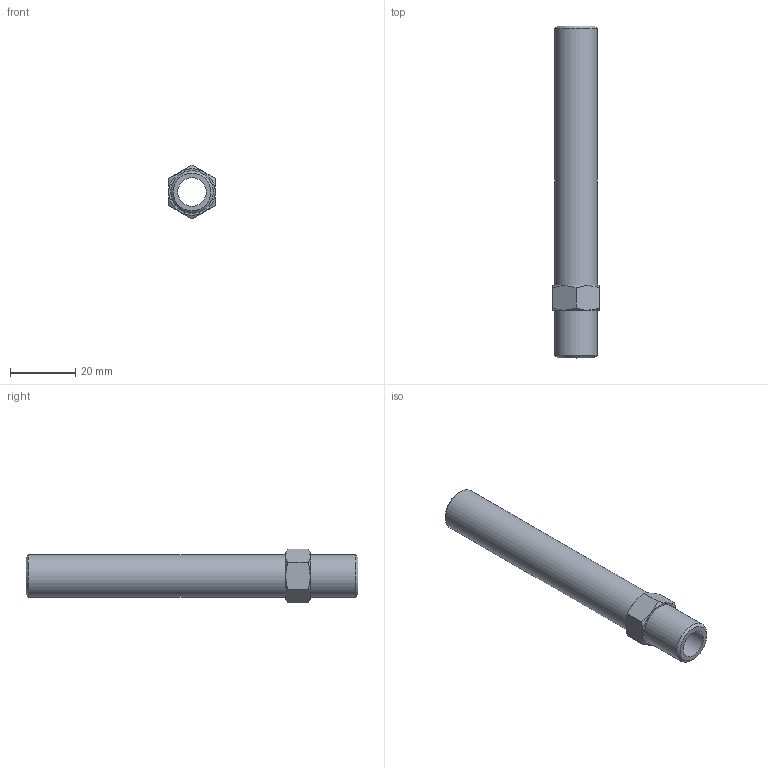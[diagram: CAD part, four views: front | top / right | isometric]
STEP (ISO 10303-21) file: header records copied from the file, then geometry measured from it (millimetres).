
FILE_DESCRIPTION(/* description */ (''),/* implementation_level */ '2;1');
FILE_NAME(/* name */ 'C:/Users/drich/Desktop/APN14-4 v1.step',/* time_stamp */ '2019-12-27T17:44:51-06:00',/* author */ (''),/* organization */ (''),/* preprocessor_version */ 'ST-DEVELOPER v18',/* originating_system */ 'Autodesk Translation Framework v8.12.0.6',/* authorisation */ '');
FILE_SCHEMA (('AUTOMOTIVE_DESIGN { 1 0 10303 214 3 1 1 }'));
Length unit declared in the file: inch
Products named in the file (1): APN14-4
Bounding box: 14.27 x 101.6 x 16.48 mm (x, y, z)
Volume: 7792.5 mm3; surface area: 7180.1 mm2
Topology: 1 solids, 1 shells, 17 faces, 39 edges, 26 vertices
Faces by surface type: plane 10, cone 4, cylinder 3
Full cylindrical faces by diameter (mm): 8.712 x1, 13.032 x2
Entity records: 521 total; most frequent: CARTESIAN_POINT 107, ORIENTED_EDGE 78, DIRECTION 77, EDGE_CURVE 39, AXIS2_PLACEMENT_3D 32, VERTEX_POINT 26, EDGE_LOOP 21, FACE_OUTER_BOUND 17
